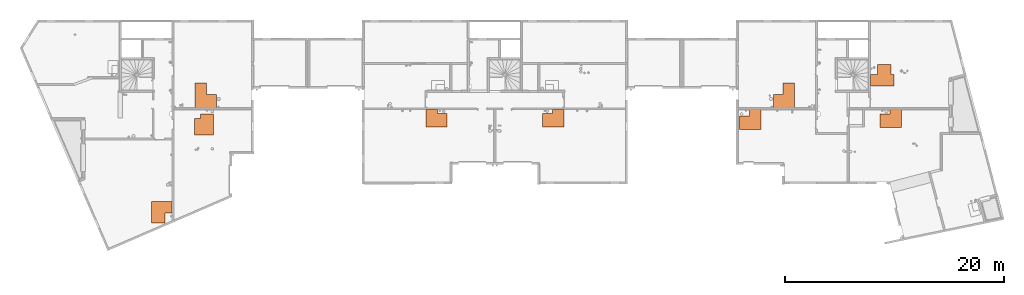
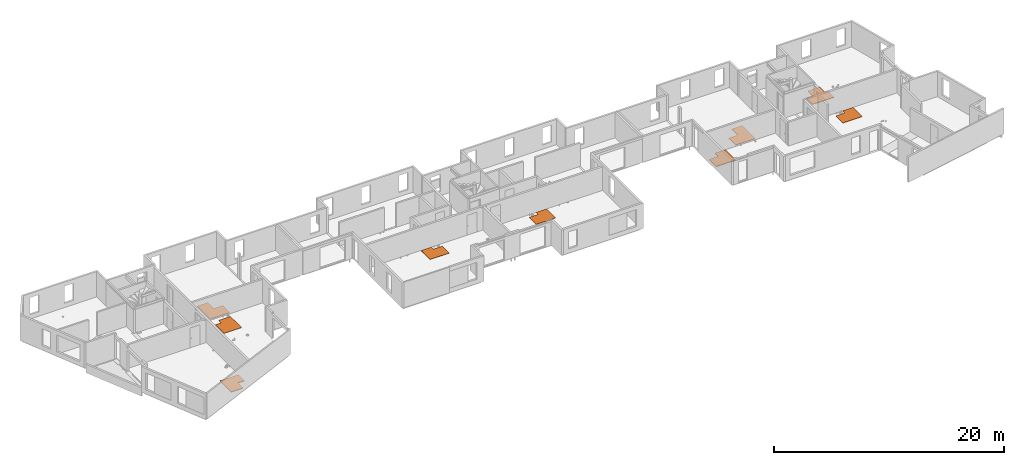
# One storey, part 23 of 30: 9 proxies.
"""IFC2X3 building model written with IfcOpenShell, lengths in centimetres."""

from ifc_helpers import new_model, entity, si_unit, converted_unit, derived_unit, direction, frame, origin, place, context, subcontext, project, spatial, polyline, outline, extrude, source, transform, mapped, material, type_object, type_shapes, element, save


model = new_model("IFC2X3")

# Units and contexts
model_context = context("Model", 3, precision=0.001, world=origin(), true_north=direction((6.12303176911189e-17, 1.0)))
body_context = subcontext(model_context, "Body", "Model", "MODEL_VIEW")
ifc_project = project(units=[si_unit("LENGTHUNIT", "METRE", prefix="CENTI"), si_unit("AREAUNIT", "SQUARE_METRE"), si_unit("VOLUMEUNIT", "CUBIC_METRE"), converted_unit("PLANEANGLEUNIT", "DEGREE", entity("IfcRatioMeasure", 0.0174532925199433), si_unit("PLANEANGLEUNIT", "RADIAN"), dimensions=[0, 0, 0, 0, 0, 0, 0]), si_unit("MASSUNIT", "GRAM", prefix="KILO"), derived_unit("MASSDENSITYUNIT", [(si_unit("MASSUNIT", "GRAM", prefix="KILO"), 1), (si_unit("LENGTHUNIT", "METRE"), -3)]), si_unit("TIMEUNIT", "SECOND"), si_unit("FREQUENCYUNIT", "HERTZ"), si_unit("THERMODYNAMICTEMPERATUREUNIT", "DEGREE_CELSIUS"), derived_unit("THERMALTRANSMITTANCEUNIT", [(si_unit("MASSUNIT", "GRAM", prefix="KILO"), 1), (si_unit("THERMODYNAMICTEMPERATUREUNIT", "KELVIN"), -1), (si_unit("TIMEUNIT", "SECOND"), -3)]), derived_unit("VOLUMETRICFLOWRATEUNIT", [(si_unit("LENGTHUNIT", "METRE"), 3), (si_unit("TIMEUNIT", "SECOND"), -1)]), si_unit("ELECTRICCURRENTUNIT", "AMPERE"), si_unit("ELECTRICVOLTAGEUNIT", "VOLT"), si_unit("POWERUNIT", "WATT"), si_unit("FORCEUNIT", "NEWTON"), si_unit("ILLUMINANCEUNIT", "LUX"), si_unit("LUMINOUSFLUXUNIT", "LUMEN"), si_unit("LUMINOUSINTENSITYUNIT", "CANDELA"), derived_unit("USERDEFINED", [(si_unit("MASSUNIT", "GRAM", prefix="KILO"), -1), (si_unit("LENGTHUNIT", "METRE"), -2), (si_unit("TIMEUNIT", "SECOND"), 3), (si_unit("LUMINOUSFLUXUNIT", "LUMEN"), 1)]), derived_unit("LINEARVELOCITYUNIT", [(si_unit("LENGTHUNIT", "METRE"), 1), (si_unit("TIMEUNIT", "SECOND"), -1)]), si_unit("PRESSUREUNIT", "PASCAL"), derived_unit("USERDEFINED", [(si_unit("LENGTHUNIT", "METRE"), -2), (si_unit("MASSUNIT", "GRAM", prefix="KILO"), 1), (si_unit("TIMEUNIT", "SECOND"), -2)])], contexts=[model_context])

# Site, building, storey
site_placement = place(None, origin())
site = spatial("IfcSite", under=ifc_project, at=site_placement, Name="Default", CompositionType="ELEMENT")
building_placement = place(site_placement, origin())
building = spatial("IfcBuilding", under=site, at=building_placement, Name="CAGE 03", CompositionType="ELEMENT")
storey_placement = place(building_placement, frame((0.0, 0.0, 610.0)))
storey = spatial("IfcBuildingStorey", under=building, at=storey_placement, Name="R+2", CompositionType="ELEMENT", Elevation=610.0)

# Proxies
ifc_material = material(Name="BBGO_Résa")
building_element_proxy_type_1 = type_object("IfcBuildingElementProxyType", Name="Décaissé", PredefinedType="NOTDEFINED", material=ifc_material)
shared_shape_1 = source(origin(), body_context, "Body", "SweptSolid", [
    extrude(outline(polyline([(-84.0, -100.0), (103.0, -100.0), (103.0, 95.0), (-19.0, 95.0), (-19.0, 5.0), (-84.0, 5.0), (-84.0, -100.0)])), frame((4050.36582014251, 3537.66066607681, 604.0), z_axis=(0.0, 0.0, 1.0), x_axis=(-1.0, 0.0, 0.0)), (0.0, 0.0, 1.0), 6.00000000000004),
])
type_shapes(building_element_proxy_type_1, [shared_shape_1])
proxy_1_placement = place(storey_placement, frame((0.0, 0.0, -610.0)))
element("IfcBuildingElementProxy", 1, at=proxy_1_placement, inside=storey, type_object=building_element_proxy_type_1, material=ifc_material, Name="Décaissé13:Décaissé", ObjectType="Décaissé", context=body_context, shape_type="MappedRepresentation", body=[
    mapped(shared_shape_1, transform((0.0, 0.0, 0.0), scale=1.0)),
])
building_element_proxy_type_2 = type_object("IfcBuildingElementProxyType", Name="Décaissé", PredefinedType="NOTDEFINED", material=ifc_material)
shared_shape_2 = source(origin(), body_context, "Body", "SweptSolid", [
    extrude(outline(polyline([(-98.3333333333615, -80.0), (21.6666666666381, -80.0), (21.6666666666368, -35.0), (76.6666666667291, -35.0), (76.6666666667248, 115.0), (-98.3333333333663, 115.0), (-98.3333333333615, -80.0)])), frame((4416.53248680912, 4357.66066607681, 604.0), z_axis=(0.0, 0.0, 1.0), x_axis=(-1.0, 0.0, 0.0)), (0.0, 0.0, 1.0), 6.00000000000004),
])
type_shapes(building_element_proxy_type_2, [shared_shape_2])
proxy_2_placement = place(storey_placement, frame((0.0, 0.0, -610.0)))
element("IfcBuildingElementProxy", 2, at=proxy_2_placement, inside=storey, type_object=building_element_proxy_type_2, material=ifc_material, Name="Décaissé15:Décaissé", ObjectType="Décaissé", context=body_context, shape_type="MappedRepresentation", body=[
    mapped(shared_shape_2, transform((0.0, 0.0, 0.0), scale=1.0)),
])
building_element_proxy_type_3 = type_object("IfcBuildingElementProxyType", Name="Décaissé", PredefinedType="NOTDEFINED", material=ifc_material)
shared_shape_3 = source(origin(), body_context, "Body", "SweptSolid", [
    extrude(outline(polyline([(-5.0, -110.666666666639), (100.0, -110.666666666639), (100.0, 116.333333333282), (-95.0, 116.333333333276), (-95.0, -5.66666666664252), (-5.0, -5.66666666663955), (-5.0, -110.666666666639)])), frame((4444.37079311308, 4608.99399941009, 604.0), z_axis=(0.0, 0.0, 1.0), x_axis=(-1.0, 0.0, 0.0)), (0.0, 0.0, 1.0), 6.00000000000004),
])
type_shapes(building_element_proxy_type_3, [shared_shape_3])
proxy_3_placement = place(storey_placement, frame((0.0, 0.0, -610.0)))
element("IfcBuildingElementProxy", 3, at=proxy_3_placement, inside=storey, type_object=building_element_proxy_type_3, material=ifc_material, Name="Décaissé16:Décaissé", ObjectType="Décaissé", context=body_context, shape_type="MappedRepresentation", body=[
    mapped(shared_shape_3, transform((0.0, 0.0, 0.0), scale=1.0)),
])
building_element_proxy_type_4 = type_object("IfcBuildingElementProxyType", Name="Décaissé", PredefinedType="NOTDEFINED", material=ifc_material)
shared_shape_4 = source(origin(), body_context, "Body", "SweptSolid", [
    extrude(outline(polyline([(-5.0, -64.0), (100.0, -64.0), (100.0, 93.0), (-95.0, 93.0), (-95.0, -29.0), (-5.0, -29.0), (-5.0, -64.0)])), frame((6550.86582014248, 4410.6606660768, 604.0), z_axis=(0.0, 0.0, 1.0), x_axis=(-1.0, 0.0, 0.0)), (0.0, 0.0, 1.0), 6.00000000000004),
])
type_shapes(building_element_proxy_type_4, [shared_shape_4])
proxy_4_placement = place(storey_placement, frame((0.0, 0.0, -610.0)))
element("IfcBuildingElementProxy", 4, at=proxy_4_placement, inside=storey, type_object=building_element_proxy_type_4, material=ifc_material, Name="Décaissé18:Décaissé", ObjectType="Décaissé", context=body_context, shape_type="MappedRepresentation", body=[
    mapped(shared_shape_4, transform((0.0, 0.0, 0.0), scale=1.0)),
])
building_element_proxy_type_5 = type_object("IfcBuildingElementProxyType", Name="Décaissé", PredefinedType="NOTDEFINED", material=ifc_material)
shared_shape_5 = source(origin(), body_context, "Body", "SweptSolid", [
    extrude(outline(polyline([(-64.0, 5.0), (-64.0, -100.0), (93.0, -100.0), (93.0, 95.0), (-29.0, 95.0), (-29.0, 5.0), (-64.0, 5.0)])), frame((7611.86582014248, 4410.6606660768, 604.0), z_axis=(0.0, 0.0, -1.0), x_axis=(0.0, -1.0, 0.0)), (0.0, 0.0, -1.0), 6.00000000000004),
])
type_shapes(building_element_proxy_type_5, [shared_shape_5])
proxy_5_placement = place(storey_placement, frame((0.0, 0.0, -610.0)))
element("IfcBuildingElementProxy", 5, at=proxy_5_placement, inside=storey, type_object=building_element_proxy_type_5, material=ifc_material, Name="Décaissé20:Décaissé", ObjectType="Décaissé", context=body_context, shape_type="MappedRepresentation", body=[
    mapped(shared_shape_5, transform((0.0, 0.0, 0.0), scale=1.0)),
])
building_element_proxy_type_6 = type_object("IfcBuildingElementProxyType", Name="Décaissé", PredefinedType="NOTDEFINED", material=ifc_material)
shared_shape_6 = source(origin(), body_context, "Body", "SweptSolid", [
    extrude(outline(polyline([(-110.666666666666, 5.00103927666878), (-110.666666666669, -100.000519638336), (116.333333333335, -100.000519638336), (116.333333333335, 94.9994803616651), (-5.66666666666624, 94.9994803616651), (-5.66666666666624, 5.00103927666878), (-110.666666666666, 5.00103927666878)])), frame((9718.36764074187, 4608.99399941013, 604.0), z_axis=(0.0, 0.0, -1.0), x_axis=(0.0, -1.0, 0.0)), (0.0, 0.0, -1.0), 6.00000000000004),
])
type_shapes(building_element_proxy_type_6, [shared_shape_6])
proxy_6_placement = place(storey_placement, frame((0.0, 0.0, -610.0)))
element("IfcBuildingElementProxy", 6, at=proxy_6_placement, inside=storey, type_object=building_element_proxy_type_6, material=ifc_material, Name="Décaissé21:Décaissé", ObjectType="Décaissé", context=body_context, shape_type="MappedRepresentation", body=[
    mapped(shared_shape_6, transform((0.0, 0.0, 0.0), scale=1.0)),
])
building_element_proxy_type_7 = type_object("IfcBuildingElementProxyType", Name="Décaissé", PredefinedType="NOTDEFINED", material=ifc_material)
shared_shape_7 = source(origin(), body_context, "Body", "SweptSolid", [
    extrude(outline(polyline([(-78.6666666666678, 5.0), (-78.6666666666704, -100.0), (100.333333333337, -100.0), (100.333333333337, 95.0), (-21.6666666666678, 95.0), (-21.6666666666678, 5.0), (-78.6666666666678, 5.0)])), frame((9409.36582014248, 4395.99399941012, 604.0), z_axis=(0.0, 0.0, -1.0), x_axis=(0.0, -1.0, 0.0)), (0.0, 0.0, -1.0), 6.00000000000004),
])
type_shapes(building_element_proxy_type_7, [shared_shape_7])
proxy_7_placement = place(storey_placement, frame((0.0, 0.0, -610.0)))
element("IfcBuildingElementProxy", 7, at=proxy_7_placement, inside=storey, type_object=building_element_proxy_type_7, material=ifc_material, Name="Décaissé22:Décaissé", ObjectType="Décaissé", context=body_context, shape_type="MappedRepresentation", body=[
    mapped(shared_shape_7, transform((0.0, 0.0, 0.0), scale=1.0)),
])
building_element_proxy_type_8 = type_object("IfcBuildingElementProxyType", Name="Décaissé", PredefinedType="NOTDEFINED", material=ifc_material)
shared_shape_8 = source(origin(), body_context, "Body", "SweptSolid", [
    extrude(outline(polyline([(-93.749999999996, 50.7499999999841), (-93.7499999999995, -69.250000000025), (-3.75000000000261, -69.250000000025), (-3.75000000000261, -99.2500000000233), (101.25, -99.2500000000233), (101.25, 117.750000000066), (-3.75000000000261, 117.750000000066), (-3.75000000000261, 50.7499999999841), (-93.749999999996, 50.7499999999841)])), frame((10626.1158201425, 4793.91066607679, 604.0), z_axis=(0.0, 0.0, -1.0), x_axis=(0.0, -1.0, 0.0)), (0.0, 0.0, -1.0), 6.00000000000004),
])
type_shapes(building_element_proxy_type_8, [shared_shape_8])
proxy_8_placement = place(storey_placement, frame((0.0, 0.0, -610.0)))
element("IfcBuildingElementProxy", 8, at=proxy_8_placement, inside=storey, type_object=building_element_proxy_type_8, material=ifc_material, Name="Décaissé23:Décaissé", ObjectType="Décaissé", context=body_context, shape_type="MappedRepresentation", body=[
    mapped(shared_shape_8, transform((0.0, 0.0, 0.0), scale=1.0)),
])
building_element_proxy_type_9 = type_object("IfcBuildingElementProxyType", Name="Décaissé", PredefinedType="NOTDEFINED", material=ifc_material)
shared_shape_9 = source(origin(), body_context, "Body", "SweptSolid", [
    extrude(outline(polyline([(-66.0, 5.0), (-66.0, -100.0), (94.0, -100.0), (94.0, 95.0), (-28.0, 95.0), (-28.0, 5.0), (-66.0, 5.0)])), frame((10692.3658201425, 4408.66066607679, 604.0), z_axis=(0.0, 0.0, -1.0), x_axis=(0.0, -1.0, 0.0)), (0.0, 0.0, -1.0), 6.00000000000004),
])
type_shapes(building_element_proxy_type_9, [shared_shape_9])
proxy_9_placement = place(storey_placement, frame((0.0, 0.0, -610.0)))
element("IfcBuildingElementProxy", 9, at=proxy_9_placement, inside=storey, type_object=building_element_proxy_type_9, material=ifc_material, Name="Décaissé24:Décaissé", ObjectType="Décaissé", context=body_context, shape_type="MappedRepresentation", body=[
    mapped(shared_shape_9, transform((0.0, 0.0, 0.0), scale=1.0)),
])

save(model, "model.ifc")
